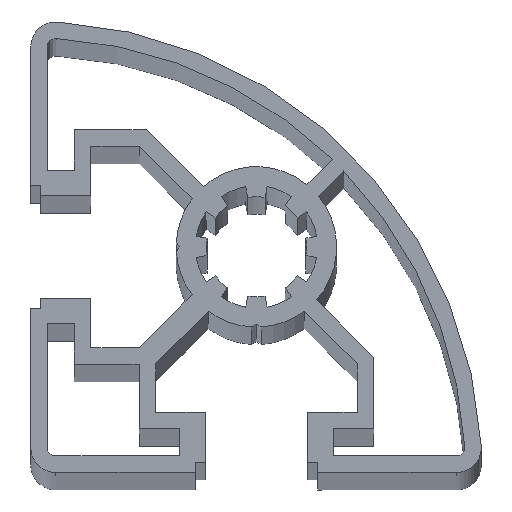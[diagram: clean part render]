
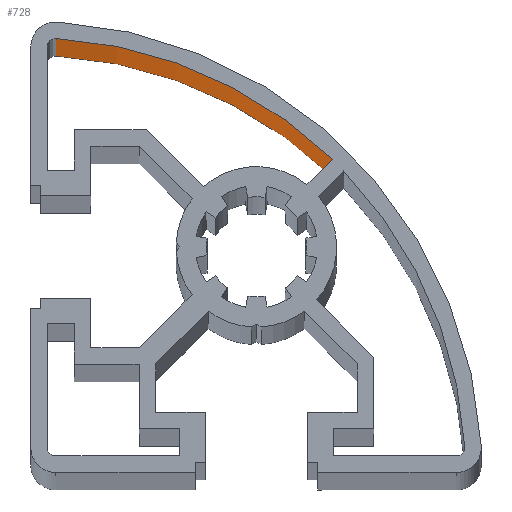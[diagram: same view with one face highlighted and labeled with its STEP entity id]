
A CAD part, top view. The second image highlights one B-rep face of the part: STEP entity #728.
In plain terms, the highlighted cylindrical face has radius 43.35 mm (diameter 86.701 mm), a partial arc.
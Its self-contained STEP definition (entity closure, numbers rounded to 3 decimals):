
#87 = AXIS2_PLACEMENT_3D ( 'NONE', #2493, #879, #195 ) ;
#146 = EDGE_CURVE ( 'NONE', #2724, #1510, #936, .T. ) ;
#195 = DIRECTION ( 'NONE',  ( 1., 0., 0. ) ) ;
#283 = FACE_OUTER_BOUND ( 'NONE', #3067, .T. ) ;
#386 = ORIENTED_EDGE ( 'NONE', *, *, #1514, .F. ) ;
#489 = VERTEX_POINT ( 'NONE', #884 ) ;
#490 = VECTOR ( 'NONE', #516, 1000. ) ;
#516 = DIRECTION ( 'NONE',  ( 0., 0., -1. ) ) ;
#574 = LINE ( 'NONE', #794, #490 ) ;
#660 = DIRECTION ( 'NONE',  ( 0., 0., 1. ) ) ;
#728 = ADVANCED_FACE ( 'NONE', ( #283 ), #2320, .F. ) ;
#794 = CARTESIAN_POINT ( 'NONE',  ( -9.759, 17.363, 1000. ) ) ;
#879 = DIRECTION ( 'NONE',  ( 0., 0., 1. ) ) ;
#884 = CARTESIAN_POINT ( 'NONE',  ( -9.759, 17.363, 0. ) ) ;
#886 = VECTOR ( 'NONE', #2065, 1000. ) ;
#907 = EDGE_CURVE ( 'NONE', #489, #1689, #1498, .T. ) ;
#936 = CIRCLE ( 'NONE', #87, 43.35 ) ;
#946 = DIRECTION ( 'NONE',  ( -1., 0., 0. ) ) ;
#1010 = AXIS2_PLACEMENT_3D ( 'NONE', #3342, #3099, #946 ) ;
#1061 = CARTESIAN_POINT ( 'NONE',  ( -37.273, 29.407, 1000. ) ) ;
#1191 = ORIENTED_EDGE ( 'NONE', *, *, #146, .T. ) ;
#1489 = ORIENTED_EDGE ( 'NONE', *, *, #907, .F. ) ;
#1498 = CIRCLE ( 'NONE', #3172, 43.35 ) ;
#1504 = CARTESIAN_POINT ( 'NONE',  ( -37.273, 29.407, 0. ) ) ;
#1510 = VERTEX_POINT ( 'NONE', #1061 ) ;
#1514 = EDGE_CURVE ( 'NONE', #2724, #489, #574, .T. ) ;
#1689 = VERTEX_POINT ( 'NONE', #1504 ) ;
#2065 = DIRECTION ( 'NONE',  ( 0., 0., -1. ) ) ;
#2260 = CARTESIAN_POINT ( 'NONE',  ( -39.823, -13.868, 0. ) ) ;
#2320 = CYLINDRICAL_SURFACE ( 'NONE', #1010, 43.35 ) ;
#2362 = CARTESIAN_POINT ( 'NONE',  ( -9.759, 17.363, 1000. ) ) ;
#2493 = CARTESIAN_POINT ( 'NONE',  ( -39.823, -13.868, 1000. ) ) ;
#2530 = DIRECTION ( 'NONE',  ( 1., 0., 0. ) ) ;
#2724 = VERTEX_POINT ( 'NONE', #2362 ) ;
#2876 = CARTESIAN_POINT ( 'NONE',  ( -37.273, 29.407, 1000. ) ) ;
#3009 = EDGE_CURVE ( 'NONE', #1510, #1689, #3035, .T. ) ;
#3035 = LINE ( 'NONE', #2876, #886 ) ;
#3067 = EDGE_LOOP ( 'NONE', ( #1489, #386, #1191, #3374 ) ) ;
#3099 = DIRECTION ( 'NONE',  ( 0., 0., -1. ) ) ;
#3172 = AXIS2_PLACEMENT_3D ( 'NONE', #2260, #660, #2530 ) ;
#3342 = CARTESIAN_POINT ( 'NONE',  ( -39.823, -13.868, 1000. ) ) ;
#3374 = ORIENTED_EDGE ( 'NONE', *, *, #3009, .T. ) ;
